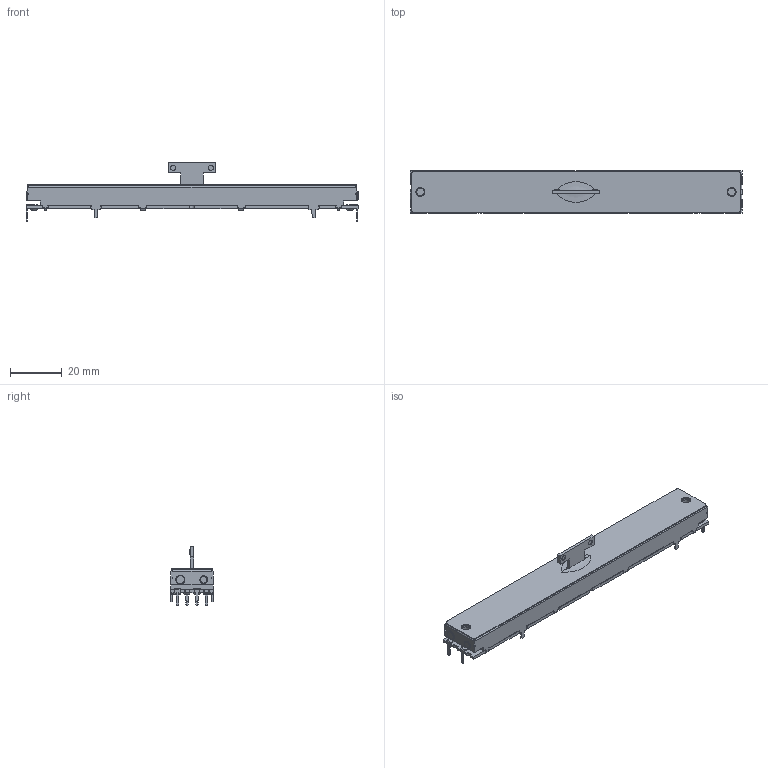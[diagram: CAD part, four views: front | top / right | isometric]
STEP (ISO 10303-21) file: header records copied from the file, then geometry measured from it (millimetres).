
FILE_DESCRIPTION(('FreeCAD Model'),'2;1');
FILE_NAME('Open CASCADE Shape Model','2026-03-31T08:02:46',(''),(''), 'Open CASCADE STEP processor 7.8','FreeCAD','Unknown');
FILE_SCHEMA(('AUTOMOTIVE_DESIGN { 1 0 10303 214 1 1 1 1 }'));
Length unit declared in the file: millimetre
Products named in the file (1): 2DSVA-110XD
Bounding box: 128 x 16.5 x 22.7 mm (x, y, z)
Volume: 18614 mm3; surface area: 9028.6 mm2
Topology: 1 solids, 2 shells, 613 faces, 1698 edges, 1114 vertices
Faces by surface type: plane 422, cylinder 161, cone 10, extrusion 8, bspline 8, revolution 4
Full cylindrical faces by diameter (mm): 0.5 x6, 1.5 x2, 2 x4, 3 x4, 3.5 x4, 4 x2
Entity records: 24104 total; most frequent: CARTESIAN_POINT 5377, ORIENTED_EDGE 3396, DIRECTION 3210, EDGE_CURVE 1698, VECTOR 1266, LINE 1258, VERTEX_POINT 1110, AXIS2_PLACEMENT_3D 970
